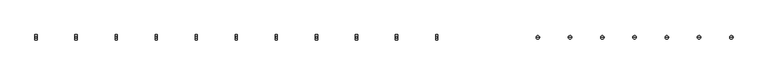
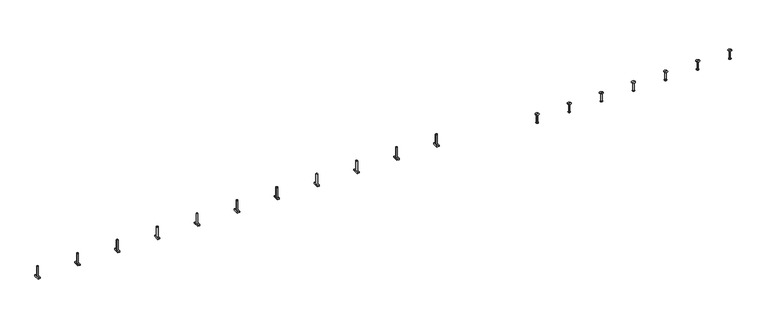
"""IFC4 building model written with IfcOpenShell, lengths in millimetres: fastener geometry, JTA-K JORDAHL® AnchorChannels : JTA-K L=6000 mm."""

from ifc_helpers import new_model, si_unit, frame, origin, place, context, project, spatial, polyline, circle_curve, source, transform, mapped, element, save
from ifc_brep_helpers import plane_surface, cylinder_surface, revolved_surface, advanced_brep


def fastener_5bf4a707(model_context):
    return source(origin(), model_context, "Body", "AdvancedBrep", [
        advanced_brep(
        [(3470.3421053, -20.7, -3.0), (3470.3421053, -20.7, -13.0), (3470.3421053, 20.7, -13.0), (3470.3421053, 20.7, -3.0), (3453.3421053, -20.7, -3.0), (3453.3421053, 20.7, -3.0), (3453.3421053, 20.7, -13.0), (3453.3421053, -20.7, -13.0), (3467.8421053, 0.0, -3.0), (3455.8421053, 0.0, -3.0), (3455.8421053, 0.0, 77.0), (3467.8421053, 0.0, 77.0)],
        [
            (0, 1),
            (1, 2),
            (2, 3),
            (3, 0),
            (4, 5),
            (5, 6),
            (6, 7),
            (7, 4),
            (3, 5),
            (4, 0),
            (8, 9, circle_curve(frame((3461.8421053, 0.0, -3.0), z_axis=(0.0, 0.0, -1.0), x_axis=(1.0, 0.0, 0.0)), 6.0)),
            (9, 8, circle_curve(frame((3461.8421053, 0.0, -3.0), z_axis=(0.0, 0.0, -1.0), x_axis=(1.0, 0.0, 0.0)), 6.0)),
            (2, 6),
            (1, 7),
            (10, 11, circle_curve(frame((3461.8421053, 0.0, 77.0), z_axis=(0.0, 0.0, 1.0), x_axis=(1.0, 0.0, 0.0)), 6.0)),
            (11, 10, circle_curve(frame((3461.8421053, 0.0, 77.0), z_axis=(0.0, 0.0, 1.0), x_axis=(1.0, 0.0, 0.0)), 6.0)),
            (11, 8),
            (9, 10),
        ],
        [
            plane_surface(frame((3470.3421053, 20.7, -3.0), z_axis=(1.0, 0.0, 0.0), x_axis=(0.0, 1.0, 0.0))),
            plane_surface(frame((3453.3421053, 20.7, -3.0), z_axis=(-1.0, 0.0, 0.0), x_axis=(0.0, -1.0, 0.0))),
            plane_surface(frame((3470.3421053, -20.7, -3.0), z_axis=(0.0, 0.0, 1.0), x_axis=(-1.0, 0.0, 0.0))),
            plane_surface(frame((3470.3421053, 20.7, -3.0), z_axis=(0.0, 1.0, 0.0), x_axis=(-1.0, 0.0, 0.0))),
            plane_surface(frame((3470.3421053, 20.7, -13.0), z_axis=(0.0, 0.0, -1.0), x_axis=(-1.0, 0.0, 0.0))),
            plane_surface(frame((3470.3421053, -20.7, -13.0), z_axis=(0.0, -1.0, 0.0), x_axis=(-1.0, 0.0, 0.0))),
            plane_surface(frame((3467.8421053, 0.0, 77.0), z_axis=(0.0, 0.0, 1.0), x_axis=(0.0, -1.0, 0.0))),
            cylinder_surface(frame((3461.8421053, 0.0, -3.0), z_axis=(0.0, 0.0, 1.0), x_axis=(1.0, 0.0, 0.0)), 6.0),
        ],
        [
            (0, [[1, 2, 3, 4]]),
            (1, [[5, 6, 7, 8]]),
            (2, [[9, -5, 10, -4], [11, 12]]),
            (3, [[13, -6, -9, -3]]),
            (4, [[14, -7, -13, -2]]),
            (5, [[-10, -8, -14, -1]]),
            (6, [[15, 16]]),
            (7, [[17, -12, 18, -16]]),
            (7, [[-18, -11, -17, -15]]),
        ],
    ),
        advanced_brep(
        [(3162.4473684, -20.7, -3.0), (3162.4473684, -20.7, -13.0), (3162.4473684, 20.7, -13.0), (3162.4473684, 20.7, -3.0), (3145.4473684, -20.7, -3.0), (3145.4473684, 20.7, -3.0), (3145.4473684, 20.7, -13.0), (3145.4473684, -20.7, -13.0), (3159.9473684, 0.0, -3.0), (3147.9473684, 0.0, -3.0), (3147.9473684, 0.0, 77.0), (3159.9473684, 0.0, 77.0)],
        [
            (0, 1),
            (1, 2),
            (2, 3),
            (3, 0),
            (4, 5),
            (5, 6),
            (6, 7),
            (7, 4),
            (3, 5),
            (4, 0),
            (8, 9, circle_curve(frame((3153.9473684, 0.0, -3.0), z_axis=(0.0, 0.0, -1.0), x_axis=(1.0, 0.0, 0.0)), 6.0)),
            (9, 8, circle_curve(frame((3153.9473684, 0.0, -3.0), z_axis=(0.0, 0.0, -1.0), x_axis=(1.0, 0.0, 0.0)), 6.0)),
            (2, 6),
            (1, 7),
            (10, 11, circle_curve(frame((3153.9473684, 0.0, 77.0), z_axis=(0.0, 0.0, 1.0), x_axis=(1.0, 0.0, 0.0)), 6.0)),
            (11, 10, circle_curve(frame((3153.9473684, 0.0, 77.0), z_axis=(0.0, 0.0, 1.0), x_axis=(1.0, 0.0, 0.0)), 6.0)),
            (11, 8),
            (9, 10),
        ],
        [
            plane_surface(frame((3162.4473684, 20.7, -3.0), z_axis=(1.0, 0.0, 0.0), x_axis=(0.0, 1.0, 0.0))),
            plane_surface(frame((3145.4473684, 20.7, -3.0), z_axis=(-1.0, 0.0, 0.0), x_axis=(0.0, -1.0, 0.0))),
            plane_surface(frame((3162.4473684, -20.7, -3.0), z_axis=(0.0, 0.0, 1.0), x_axis=(-1.0, 0.0, 0.0))),
            plane_surface(frame((3162.4473684, 20.7, -3.0), z_axis=(0.0, 1.0, 0.0), x_axis=(-1.0, 0.0, 0.0))),
            plane_surface(frame((3162.4473684, 20.7, -13.0), z_axis=(0.0, 0.0, -1.0), x_axis=(-1.0, 0.0, 0.0))),
            plane_surface(frame((3162.4473684, -20.7, -13.0), z_axis=(0.0, -1.0, 0.0), x_axis=(-1.0, 0.0, 0.0))),
            plane_surface(frame((3159.9473684, 0.0, 77.0), z_axis=(0.0, 0.0, 1.0), x_axis=(0.0, -1.0, 0.0))),
            cylinder_surface(frame((3153.9473684, 0.0, -3.0), z_axis=(0.0, 0.0, 1.0), x_axis=(1.0, 0.0, 0.0)), 6.0),
        ],
        [
            (0, [[1, 2, 3, 4]]),
            (1, [[5, 6, 7, 8]]),
            (2, [[9, -5, 10, -4], [11, 12]]),
            (3, [[13, -6, -9, -3]]),
            (4, [[14, -7, -13, -2]]),
            (5, [[-10, -8, -14, -1]]),
            (6, [[15, 16]]),
            (7, [[17, -12, 18, -16]]),
            (7, [[-18, -11, -17, -15]]),
        ],
    ),
        advanced_brep(
        [(2854.5526316, -20.7, -3.0), (2854.5526316, -20.7, -13.0), (2854.5526316, 20.7, -13.0), (2854.5526316, 20.7, -3.0), (2837.5526316, -20.7, -3.0), (2837.5526316, 20.7, -3.0), (2837.5526316, 20.7, -13.0), (2837.5526316, -20.7, -13.0), (2852.0526316, 0.0, -3.0), (2840.0526316, 0.0, -3.0), (2840.0526316, 0.0, 77.0), (2852.0526316, 0.0, 77.0)],
        [
            (0, 1),
            (1, 2),
            (2, 3),
            (3, 0),
            (4, 5),
            (5, 6),
            (6, 7),
            (7, 4),
            (3, 5),
            (4, 0),
            (8, 9, circle_curve(frame((2846.0526316, 0.0, -3.0), z_axis=(0.0, 0.0, -1.0), x_axis=(1.0, 0.0, 0.0)), 6.0)),
            (9, 8, circle_curve(frame((2846.0526316, 0.0, -3.0), z_axis=(0.0, 0.0, -1.0), x_axis=(1.0, 0.0, 0.0)), 6.0)),
            (2, 6),
            (1, 7),
            (10, 11, circle_curve(frame((2846.0526316, 0.0, 77.0), z_axis=(0.0, 0.0, 1.0), x_axis=(1.0, 0.0, 0.0)), 6.0)),
            (11, 10, circle_curve(frame((2846.0526316, 0.0, 77.0), z_axis=(0.0, 0.0, 1.0), x_axis=(1.0, 0.0, 0.0)), 6.0)),
            (11, 8),
            (9, 10),
        ],
        [
            plane_surface(frame((2854.5526316, 20.7, -3.0), z_axis=(1.0, 0.0, 0.0), x_axis=(0.0, 1.0, 0.0))),
            plane_surface(frame((2837.5526316, 20.7, -3.0), z_axis=(-1.0, 0.0, 0.0), x_axis=(0.0, -1.0, 0.0))),
            plane_surface(frame((2854.5526316, -20.7, -3.0), z_axis=(0.0, 0.0, 1.0), x_axis=(-1.0, 0.0, 0.0))),
            plane_surface(frame((2854.5526316, 20.7, -3.0), z_axis=(0.0, 1.0, 0.0), x_axis=(-1.0, 0.0, 0.0))),
            plane_surface(frame((2854.5526316, 20.7, -13.0), z_axis=(0.0, 0.0, -1.0), x_axis=(-1.0, 0.0, 0.0))),
            plane_surface(frame((2854.5526316, -20.7, -13.0), z_axis=(0.0, -1.0, 0.0), x_axis=(-1.0, 0.0, 0.0))),
            plane_surface(frame((2852.0526316, 0.0, 77.0), z_axis=(0.0, 0.0, 1.0), x_axis=(0.0, -1.0, 0.0))),
            cylinder_surface(frame((2846.0526316, 0.0, -3.0), z_axis=(0.0, 0.0, 1.0), x_axis=(1.0, 0.0, 0.0)), 6.0),
        ],
        [
            (0, [[1, 2, 3, 4]]),
            (1, [[5, 6, 7, 8]]),
            (2, [[9, -5, 10, -4], [11, 12]]),
            (3, [[13, -6, -9, -3]]),
            (4, [[14, -7, -13, -2]]),
            (5, [[-10, -8, -14, -1]]),
            (6, [[15, 16]]),
            (7, [[17, -12, 18, -16]]),
            (7, [[-18, -11, -17, -15]]),
        ],
    ),
        advanced_brep(
        [(2546.6578947, -20.7, -3.0), (2546.6578947, -20.7, -13.0), (2546.6578947, 20.7, -13.0), (2546.6578947, 20.7, -3.0), (2529.6578947, -20.7, -3.0), (2529.6578947, 20.7, -3.0), (2529.6578947, 20.7, -13.0), (2529.6578947, -20.7, -13.0), (2544.1578947, 0.0, -3.0), (2532.1578947, 0.0, -3.0), (2532.1578947, 0.0, 77.0), (2544.1578947, 0.0, 77.0)],
        [
            (0, 1),
            (1, 2),
            (2, 3),
            (3, 0),
            (4, 5),
            (5, 6),
            (6, 7),
            (7, 4),
            (3, 5),
            (4, 0),
            (8, 9, circle_curve(frame((2538.1578947, 0.0, -3.0), z_axis=(0.0, 0.0, -1.0), x_axis=(1.0, 0.0, 0.0)), 6.0)),
            (9, 8, circle_curve(frame((2538.1578947, 0.0, -3.0), z_axis=(0.0, 0.0, -1.0), x_axis=(1.0, 0.0, 0.0)), 6.0)),
            (2, 6),
            (1, 7),
            (10, 11, circle_curve(frame((2538.1578947, 0.0, 77.0), z_axis=(0.0, 0.0, 1.0), x_axis=(1.0, 0.0, 0.0)), 6.0)),
            (11, 10, circle_curve(frame((2538.1578947, 0.0, 77.0), z_axis=(0.0, 0.0, 1.0), x_axis=(1.0, 0.0, 0.0)), 6.0)),
            (11, 8),
            (9, 10),
        ],
        [
            plane_surface(frame((2546.6578947, 20.7, -3.0), z_axis=(1.0, 0.0, 0.0), x_axis=(0.0, 1.0, 0.0))),
            plane_surface(frame((2529.6578947, 20.7, -3.0), z_axis=(-1.0, 0.0, 0.0), x_axis=(0.0, -1.0, 0.0))),
            plane_surface(frame((2546.6578947, -20.7, -3.0), z_axis=(0.0, 0.0, 1.0), x_axis=(-1.0, 0.0, 0.0))),
            plane_surface(frame((2546.6578947, 20.7, -3.0), z_axis=(0.0, 1.0, 0.0), x_axis=(-1.0, 0.0, 0.0))),
            plane_surface(frame((2546.6578947, 20.7, -13.0), z_axis=(0.0, 0.0, -1.0), x_axis=(-1.0, 0.0, 0.0))),
            plane_surface(frame((2546.6578947, -20.7, -13.0), z_axis=(0.0, -1.0, 0.0), x_axis=(-1.0, 0.0, 0.0))),
            plane_surface(frame((2544.1578947, 0.0, 77.0), z_axis=(0.0, 0.0, 1.0), x_axis=(0.0, -1.0, 0.0))),
            cylinder_surface(frame((2538.1578947, 0.0, -3.0), z_axis=(0.0, 0.0, 1.0), x_axis=(1.0, 0.0, 0.0)), 6.0),
        ],
        [
            (0, [[1, 2, 3, 4]]),
            (1, [[5, 6, 7, 8]]),
            (2, [[9, -5, 10, -4], [11, 12]]),
            (3, [[13, -6, -9, -3]]),
            (4, [[14, -7, -13, -2]]),
            (5, [[-10, -8, -14, -1]]),
            (6, [[15, 16]]),
            (7, [[17, -12, 18, -16]]),
            (7, [[-18, -11, -17, -15]]),
        ],
    ),
        advanced_brep(
        [(2238.7631579, -20.7, -3.0), (2238.7631579, -20.7, -13.0), (2238.7631579, 20.7, -13.0), (2238.7631579, 20.7, -3.0), (2221.7631579, -20.7, -3.0), (2221.7631579, 20.7, -3.0), (2221.7631579, 20.7, -13.0), (2221.7631579, -20.7, -13.0), (2236.2631579, 0.0, -3.0), (2224.2631579, 0.0, -3.0), (2224.2631579, 0.0, 77.0), (2236.2631579, 0.0, 77.0)],
        [
            (0, 1),
            (1, 2),
            (2, 3),
            (3, 0),
            (4, 5),
            (5, 6),
            (6, 7),
            (7, 4),
            (3, 5),
            (4, 0),
            (8, 9, circle_curve(frame((2230.2631579, 0.0, -3.0), z_axis=(0.0, 0.0, -1.0), x_axis=(1.0, 0.0, 0.0)), 6.0)),
            (9, 8, circle_curve(frame((2230.2631579, 0.0, -3.0), z_axis=(0.0, 0.0, -1.0), x_axis=(1.0, 0.0, 0.0)), 6.0)),
            (2, 6),
            (1, 7),
            (10, 11, circle_curve(frame((2230.2631579, 0.0, 77.0), z_axis=(0.0, 0.0, 1.0), x_axis=(1.0, 0.0, 0.0)), 6.0)),
            (11, 10, circle_curve(frame((2230.2631579, 0.0, 77.0), z_axis=(0.0, 0.0, 1.0), x_axis=(1.0, 0.0, 0.0)), 6.0)),
            (11, 8),
            (9, 10),
        ],
        [
            plane_surface(frame((2238.7631579, 20.7, -3.0), z_axis=(1.0, 0.0, 0.0), x_axis=(0.0, 1.0, 0.0))),
            plane_surface(frame((2221.7631579, 20.7, -3.0), z_axis=(-1.0, 0.0, 0.0), x_axis=(0.0, -1.0, 0.0))),
            plane_surface(frame((2238.7631579, -20.7, -3.0), z_axis=(0.0, 0.0, 1.0), x_axis=(-1.0, 0.0, 0.0))),
            plane_surface(frame((2238.7631579, 20.7, -3.0), z_axis=(0.0, 1.0, 0.0), x_axis=(-1.0, 0.0, 0.0))),
            plane_surface(frame((2238.7631579, 20.7, -13.0), z_axis=(0.0, 0.0, -1.0), x_axis=(-1.0, 0.0, 0.0))),
            plane_surface(frame((2238.7631579, -20.7, -13.0), z_axis=(0.0, -1.0, 0.0), x_axis=(-1.0, 0.0, 0.0))),
            plane_surface(frame((2236.2631579, 0.0, 77.0), z_axis=(0.0, 0.0, 1.0), x_axis=(0.0, -1.0, 0.0))),
            cylinder_surface(frame((2230.2631579, 0.0, -3.0), z_axis=(0.0, 0.0, 1.0), x_axis=(1.0, 0.0, 0.0)), 6.0),
        ],
        [
            (0, [[1, 2, 3, 4]]),
            (1, [[5, 6, 7, 8]]),
            (2, [[9, -5, 10, -4], [11, 12]]),
            (3, [[13, -6, -9, -3]]),
            (4, [[14, -7, -13, -2]]),
            (5, [[-10, -8, -14, -1]]),
            (6, [[15, 16]]),
            (7, [[17, -12, 18, -16]]),
            (7, [[-18, -11, -17, -15]]),
        ],
    ),
        advanced_brep(
        [(1930.8684211, -20.7, -3.0), (1930.8684211, -20.7, -13.0), (1930.8684211, 20.7, -13.0), (1930.8684211, 20.7, -3.0), (1913.8684211, -20.7, -3.0), (1913.8684211, 20.7, -3.0), (1913.8684211, 20.7, -13.0), (1913.8684211, -20.7, -13.0), (1928.3684211, 0.0, -3.0), (1916.3684211, 0.0, -3.0), (1916.3684211, 0.0, 77.0), (1928.3684211, 0.0, 77.0)],
        [
            (0, 1),
            (1, 2),
            (2, 3),
            (3, 0),
            (4, 5),
            (5, 6),
            (6, 7),
            (7, 4),
            (3, 5),
            (4, 0),
            (8, 9, circle_curve(frame((1922.3684211, 0.0, -3.0), z_axis=(0.0, 0.0, -1.0), x_axis=(1.0, 0.0, 0.0)), 6.0)),
            (9, 8, circle_curve(frame((1922.3684211, 0.0, -3.0), z_axis=(0.0, 0.0, -1.0), x_axis=(1.0, 0.0, 0.0)), 6.0)),
            (2, 6),
            (1, 7),
            (10, 11, circle_curve(frame((1922.3684211, 0.0, 77.0), z_axis=(0.0, 0.0, 1.0), x_axis=(1.0, 0.0, 0.0)), 6.0)),
            (11, 10, circle_curve(frame((1922.3684211, 0.0, 77.0), z_axis=(0.0, 0.0, 1.0), x_axis=(1.0, 0.0, 0.0)), 6.0)),
            (11, 8),
            (9, 10),
        ],
        [
            plane_surface(frame((1930.8684211, 20.7, -3.0), z_axis=(1.0, 0.0, 0.0), x_axis=(0.0, 1.0, 0.0))),
            plane_surface(frame((1913.8684211, 20.7, -3.0), z_axis=(-1.0, 0.0, 0.0), x_axis=(0.0, -1.0, 0.0))),
            plane_surface(frame((1930.8684211, -20.7, -3.0), z_axis=(0.0, 0.0, 1.0), x_axis=(-1.0, 0.0, 0.0))),
            plane_surface(frame((1930.8684211, 20.7, -3.0), z_axis=(0.0, 1.0, 0.0), x_axis=(-1.0, 0.0, 0.0))),
            plane_surface(frame((1930.8684211, 20.7, -13.0), z_axis=(0.0, 0.0, -1.0), x_axis=(-1.0, 0.0, 0.0))),
            plane_surface(frame((1930.8684211, -20.7, -13.0), z_axis=(0.0, -1.0, 0.0), x_axis=(-1.0, 0.0, 0.0))),
            plane_surface(frame((1928.3684211, 0.0, 77.0), z_axis=(0.0, 0.0, 1.0), x_axis=(0.0, -1.0, 0.0))),
            cylinder_surface(frame((1922.3684211, 0.0, -3.0), z_axis=(0.0, 0.0, 1.0), x_axis=(1.0, 0.0, 0.0)), 6.0),
        ],
        [
            (0, [[1, 2, 3, 4]]),
            (1, [[5, 6, 7, 8]]),
            (2, [[9, -5, 10, -4], [11, 12]]),
            (3, [[13, -6, -9, -3]]),
            (4, [[14, -7, -13, -2]]),
            (5, [[-10, -8, -14, -1]]),
            (6, [[15, 16]]),
            (7, [[17, -12, 18, -16]]),
            (7, [[-18, -11, -17, -15]]),
        ],
    ),
        advanced_brep(
        [(1622.9736842, -20.7, -3.0), (1622.9736842, -20.7, -13.0), (1622.9736842, 20.7, -13.0), (1622.9736842, 20.7, -3.0), (1605.9736842, -20.7, -3.0), (1605.9736842, 20.7, -3.0), (1605.9736842, 20.7, -13.0), (1605.9736842, -20.7, -13.0), (1620.4736842, 0.0, -3.0), (1608.4736842, 0.0, -3.0), (1608.4736842, 0.0, 77.0), (1620.4736842, 0.0, 77.0)],
        [
            (0, 1),
            (1, 2),
            (2, 3),
            (3, 0),
            (4, 5),
            (5, 6),
            (6, 7),
            (7, 4),
            (3, 5),
            (4, 0),
            (8, 9, circle_curve(frame((1614.4736842, 0.0, -3.0), z_axis=(0.0, 0.0, -1.0), x_axis=(1.0, 0.0, 0.0)), 6.0)),
            (9, 8, circle_curve(frame((1614.4736842, 0.0, -3.0), z_axis=(0.0, 0.0, -1.0), x_axis=(1.0, 0.0, 0.0)), 6.0)),
            (2, 6),
            (1, 7),
            (10, 11, circle_curve(frame((1614.4736842, 0.0, 77.0), z_axis=(0.0, 0.0, 1.0), x_axis=(1.0, 0.0, 0.0)), 6.0)),
            (11, 10, circle_curve(frame((1614.4736842, 0.0, 77.0), z_axis=(0.0, 0.0, 1.0), x_axis=(1.0, 0.0, 0.0)), 6.0)),
            (11, 8),
            (9, 10),
        ],
        [
            plane_surface(frame((1622.9736842, 20.7, -3.0), z_axis=(1.0, 0.0, 0.0), x_axis=(0.0, 1.0, 0.0))),
            plane_surface(frame((1605.9736842, 20.7, -3.0), z_axis=(-1.0, 0.0, 0.0), x_axis=(0.0, -1.0, 0.0))),
            plane_surface(frame((1622.9736842, -20.7, -3.0), z_axis=(0.0, 0.0, 1.0), x_axis=(-1.0, 0.0, 0.0))),
            plane_surface(frame((1622.9736842, 20.7, -3.0), z_axis=(0.0, 1.0, 0.0), x_axis=(-1.0, 0.0, 0.0))),
            plane_surface(frame((1622.9736842, 20.7, -13.0), z_axis=(0.0, 0.0, -1.0), x_axis=(-1.0, 0.0, 0.0))),
            plane_surface(frame((1622.9736842, -20.7, -13.0), z_axis=(0.0, -1.0, 0.0), x_axis=(-1.0, 0.0, 0.0))),
            plane_surface(frame((1620.4736842, 0.0, 77.0), z_axis=(0.0, 0.0, 1.0), x_axis=(0.0, -1.0, 0.0))),
            cylinder_surface(frame((1614.4736842, 0.0, -3.0), z_axis=(0.0, 0.0, 1.0), x_axis=(1.0, 0.0, 0.0)), 6.0),
        ],
        [
            (0, [[1, 2, 3, 4]]),
            (1, [[5, 6, 7, 8]]),
            (2, [[9, -5, 10, -4], [11, 12]]),
            (3, [[13, -6, -9, -3]]),
            (4, [[14, -7, -13, -2]]),
            (5, [[-10, -8, -14, -1]]),
            (6, [[15, 16]]),
            (7, [[17, -12, 18, -16]]),
            (7, [[-18, -11, -17, -15]]),
        ],
    ),
        advanced_brep(
        [(1315.0789474, -20.7, -3.0), (1315.0789474, -20.7, -13.0), (1315.0789474, 20.7, -13.0), (1315.0789474, 20.7, -3.0), (1298.0789474, -20.7, -3.0), (1298.0789474, 20.7, -3.0), (1298.0789474, 20.7, -13.0), (1298.0789474, -20.7, -13.0), (1312.5789474, 0.0, -3.0), (1300.5789474, 0.0, -3.0), (1300.5789474, 0.0, 77.0), (1312.5789474, 0.0, 77.0)],
        [
            (0, 1),
            (1, 2),
            (2, 3),
            (3, 0),
            (4, 5),
            (5, 6),
            (6, 7),
            (7, 4),
            (3, 5),
            (4, 0),
            (8, 9, circle_curve(frame((1306.5789474, 0.0, -3.0), z_axis=(0.0, 0.0, -1.0), x_axis=(1.0, 0.0, 0.0)), 6.0)),
            (9, 8, circle_curve(frame((1306.5789474, 0.0, -3.0), z_axis=(0.0, 0.0, -1.0), x_axis=(1.0, 0.0, 0.0)), 6.0)),
            (2, 6),
            (1, 7),
            (10, 11, circle_curve(frame((1306.5789474, 0.0, 77.0), z_axis=(0.0, 0.0, 1.0), x_axis=(1.0, 0.0, 0.0)), 6.0)),
            (11, 10, circle_curve(frame((1306.5789474, 0.0, 77.0), z_axis=(0.0, 0.0, 1.0), x_axis=(1.0, 0.0, 0.0)), 6.0)),
            (11, 8),
            (9, 10),
        ],
        [
            plane_surface(frame((1315.0789474, 20.7, -3.0), z_axis=(1.0, 0.0, 0.0), x_axis=(0.0, 1.0, 0.0))),
            plane_surface(frame((1298.0789474, 20.7, -3.0), z_axis=(-1.0, 0.0, 0.0), x_axis=(0.0, -1.0, 0.0))),
            plane_surface(frame((1315.0789474, -20.7, -3.0), z_axis=(0.0, 0.0, 1.0), x_axis=(-1.0, 0.0, 0.0))),
            plane_surface(frame((1315.0789474, 20.7, -3.0), z_axis=(0.0, 1.0, 0.0), x_axis=(-1.0, 0.0, 0.0))),
            plane_surface(frame((1315.0789474, 20.7, -13.0), z_axis=(0.0, 0.0, -1.0), x_axis=(-1.0, 0.0, 0.0))),
            plane_surface(frame((1315.0789474, -20.7, -13.0), z_axis=(0.0, -1.0, 0.0), x_axis=(-1.0, 0.0, 0.0))),
            plane_surface(frame((1312.5789474, 0.0, 77.0), z_axis=(0.0, 0.0, 1.0), x_axis=(0.0, -1.0, 0.0))),
            cylinder_surface(frame((1306.5789474, 0.0, -3.0), z_axis=(0.0, 0.0, 1.0), x_axis=(1.0, 0.0, 0.0)), 6.0),
        ],
        [
            (0, [[1, 2, 3, 4]]),
            (1, [[5, 6, 7, 8]]),
            (2, [[9, -5, 10, -4], [11, 12]]),
            (3, [[13, -6, -9, -3]]),
            (4, [[14, -7, -13, -2]]),
            (5, [[-10, -8, -14, -1]]),
            (6, [[15, 16]]),
            (7, [[17, -12, 18, -16]]),
            (7, [[-18, -11, -17, -15]]),
        ],
    ),
        advanced_brep(
        [(1007.1842105, -20.7, -3.0), (1007.1842105, -20.7, -13.0), (1007.1842105, 20.7, -13.0), (1007.1842105, 20.7, -3.0), (990.1842105, -20.7, -3.0), (990.1842105, 20.7, -3.0), (990.1842105, 20.7, -13.0), (990.1842105, -20.7, -13.0), (1004.6842105, 0.0, -3.0), (992.6842105, 0.0, -3.0), (992.6842105, 0.0, 77.0), (1004.6842105, 0.0, 77.0)],
        [
            (0, 1),
            (1, 2),
            (2, 3),
            (3, 0),
            (4, 5),
            (5, 6),
            (6, 7),
            (7, 4),
            (3, 5),
            (4, 0),
            (8, 9, circle_curve(frame((998.6842105, 0.0, -3.0), z_axis=(0.0, 0.0, -1.0), x_axis=(1.0, 0.0, 0.0)), 6.0)),
            (9, 8, circle_curve(frame((998.6842105, 0.0, -3.0), z_axis=(0.0, 0.0, -1.0), x_axis=(1.0, 0.0, 0.0)), 6.0)),
            (2, 6),
            (1, 7),
            (10, 11, circle_curve(frame((998.6842105, 0.0, 77.0), z_axis=(0.0, 0.0, 1.0), x_axis=(1.0, 0.0, 0.0)), 6.0)),
            (11, 10, circle_curve(frame((998.6842105, 0.0, 77.0), z_axis=(0.0, 0.0, 1.0), x_axis=(1.0, 0.0, 0.0)), 6.0)),
            (11, 8),
            (9, 10),
        ],
        [
            plane_surface(frame((1007.1842105, 20.7, -3.0), z_axis=(1.0, 0.0, 0.0), x_axis=(0.0, 1.0, 0.0))),
            plane_surface(frame((990.1842105, 20.7, -3.0), z_axis=(-1.0, 0.0, 0.0), x_axis=(0.0, -1.0, 0.0))),
            plane_surface(frame((1007.1842105, -20.7, -3.0), z_axis=(0.0, 0.0, 1.0), x_axis=(-1.0, 0.0, 0.0))),
            plane_surface(frame((1007.1842105, 20.7, -3.0), z_axis=(0.0, 1.0, 0.0), x_axis=(-1.0, 0.0, 0.0))),
            plane_surface(frame((1007.1842105, 20.7, -13.0), z_axis=(0.0, 0.0, -1.0), x_axis=(-1.0, 0.0, 0.0))),
            plane_surface(frame((1007.1842105, -20.7, -13.0), z_axis=(0.0, -1.0, 0.0), x_axis=(-1.0, 0.0, 0.0))),
            plane_surface(frame((1004.6842105, 0.0, 77.0), z_axis=(0.0, 0.0, 1.0), x_axis=(0.0, -1.0, 0.0))),
            cylinder_surface(frame((998.6842105, 0.0, -3.0), z_axis=(0.0, 0.0, 1.0), x_axis=(1.0, 0.0, 0.0)), 6.0),
        ],
        [
            (0, [[1, 2, 3, 4]]),
            (1, [[5, 6, 7, 8]]),
            (2, [[9, -5, 10, -4], [11, 12]]),
            (3, [[13, -6, -9, -3]]),
            (4, [[14, -7, -13, -2]]),
            (5, [[-10, -8, -14, -1]]),
            (6, [[15, 16]]),
            (7, [[17, -12, 18, -16]]),
            (7, [[-18, -11, -17, -15]]),
        ],
    ),
        advanced_brep(
        [(699.2894737, -20.7, -3.0), (699.2894737, -20.7, -13.0), (699.2894737, 20.7, -13.0), (699.2894737, 20.7, -3.0), (682.2894737, -20.7, -3.0), (682.2894737, 20.7, -3.0), (682.2894737, 20.7, -13.0), (682.2894737, -20.7, -13.0), (696.7894737, 0.0, -3.0), (684.7894737, 0.0, -3.0), (684.7894737, 0.0, 77.0), (696.7894737, 0.0, 77.0)],
        [
            (0, 1),
            (1, 2),
            (2, 3),
            (3, 0),
            (4, 5),
            (5, 6),
            (6, 7),
            (7, 4),
            (3, 5),
            (4, 0),
            (8, 9, circle_curve(frame((690.7894737, 0.0, -3.0), z_axis=(0.0, 0.0, -1.0), x_axis=(1.0, 0.0, 0.0)), 6.0)),
            (9, 8, circle_curve(frame((690.7894737, 0.0, -3.0), z_axis=(0.0, 0.0, -1.0), x_axis=(1.0, 0.0, 0.0)), 6.0)),
            (2, 6),
            (1, 7),
            (10, 11, circle_curve(frame((690.7894737, 0.0, 77.0), z_axis=(0.0, 0.0, 1.0), x_axis=(1.0, 0.0, 0.0)), 6.0)),
            (11, 10, circle_curve(frame((690.7894737, 0.0, 77.0), z_axis=(0.0, 0.0, 1.0), x_axis=(1.0, 0.0, 0.0)), 6.0)),
            (11, 8),
            (9, 10),
        ],
        [
            plane_surface(frame((699.2894737, 20.7, -3.0), z_axis=(1.0, 0.0, 0.0), x_axis=(0.0, 1.0, 0.0))),
            plane_surface(frame((682.2894737, 20.7, -3.0), z_axis=(-1.0, 0.0, 0.0), x_axis=(0.0, -1.0, 0.0))),
            plane_surface(frame((699.2894737, -20.7, -3.0), z_axis=(0.0, 0.0, 1.0), x_axis=(-1.0, 0.0, 0.0))),
            plane_surface(frame((699.2894737, 20.7, -3.0), z_axis=(0.0, 1.0, 0.0), x_axis=(-1.0, 0.0, 0.0))),
            plane_surface(frame((699.2894737, 20.7, -13.0), z_axis=(0.0, 0.0, -1.0), x_axis=(-1.0, 0.0, 0.0))),
            plane_surface(frame((699.2894737, -20.7, -13.0), z_axis=(0.0, -1.0, 0.0), x_axis=(-1.0, 0.0, 0.0))),
            plane_surface(frame((696.7894737, 0.0, 77.0), z_axis=(0.0, 0.0, 1.0), x_axis=(0.0, -1.0, 0.0))),
            cylinder_surface(frame((690.7894737, 0.0, -3.0), z_axis=(0.0, 0.0, 1.0), x_axis=(1.0, 0.0, 0.0)), 6.0),
        ],
        [
            (0, [[1, 2, 3, 4]]),
            (1, [[5, 6, 7, 8]]),
            (2, [[9, -5, 10, -4], [11, 12]]),
            (3, [[13, -6, -9, -3]]),
            (4, [[14, -7, -13, -2]]),
            (5, [[-10, -8, -14, -1]]),
            (6, [[15, 16]]),
            (7, [[17, -12, 18, -16]]),
            (7, [[-18, -11, -17, -15]]),
        ],
    ),
        advanced_brep(
        [(391.3947368, -20.7, -3.0), (391.3947368, -20.7, -13.0), (391.3947368, 20.7, -13.0), (391.3947368, 20.7, -3.0), (374.3947368, -20.7, -3.0), (374.3947368, 20.7, -3.0), (374.3947368, 20.7, -13.0), (374.3947368, -20.7, -13.0), (388.8947368, 0.0, -3.0), (376.8947368, 0.0, -3.0), (376.8947368, 0.0, 77.0), (388.8947368, 0.0, 77.0)],
        [
            (0, 1),
            (1, 2),
            (2, 3),
            (3, 0),
            (4, 5),
            (5, 6),
            (6, 7),
            (7, 4),
            (3, 5),
            (4, 0),
            (8, 9, circle_curve(frame((382.8947368, 0.0, -3.0), z_axis=(0.0, 0.0, -1.0), x_axis=(1.0, 0.0, 0.0)), 6.0)),
            (9, 8, circle_curve(frame((382.8947368, 0.0, -3.0), z_axis=(0.0, 0.0, -1.0), x_axis=(1.0, 0.0, 0.0)), 6.0)),
            (2, 6),
            (1, 7),
            (10, 11, circle_curve(frame((382.8947368, 0.0, 77.0), z_axis=(0.0, 0.0, 1.0), x_axis=(1.0, 0.0, 0.0)), 6.0)),
            (11, 10, circle_curve(frame((382.8947368, 0.0, 77.0), z_axis=(0.0, 0.0, 1.0), x_axis=(1.0, 0.0, 0.0)), 6.0)),
            (11, 8),
            (9, 10),
        ],
        [
            plane_surface(frame((391.3947368, 20.7, -3.0), z_axis=(1.0, 0.0, 0.0), x_axis=(0.0, 1.0, 0.0))),
            plane_surface(frame((374.3947368, 20.7, -3.0), z_axis=(-1.0, 0.0, 0.0), x_axis=(0.0, -1.0, 0.0))),
            plane_surface(frame((391.3947368, -20.7, -3.0), z_axis=(0.0, 0.0, 1.0), x_axis=(-1.0, 0.0, 0.0))),
            plane_surface(frame((391.3947368, 20.7, -3.0), z_axis=(0.0, 1.0, 0.0), x_axis=(-1.0, 0.0, 0.0))),
            plane_surface(frame((391.3947368, 20.7, -13.0), z_axis=(0.0, 0.0, -1.0), x_axis=(-1.0, 0.0, 0.0))),
            plane_surface(frame((391.3947368, -20.7, -13.0), z_axis=(0.0, -1.0, 0.0), x_axis=(-1.0, 0.0, 0.0))),
            plane_surface(frame((388.8947368, 0.0, 77.0), z_axis=(0.0, 0.0, 1.0), x_axis=(0.0, -1.0, 0.0))),
            cylinder_surface(frame((382.8947368, 0.0, -3.0), z_axis=(0.0, 0.0, 1.0), x_axis=(1.0, 0.0, 0.0)), 6.0),
        ],
        [
            (0, [[1, 2, 3, 4]]),
            (1, [[5, 6, 7, 8]]),
            (2, [[9, -5, 10, -4], [11, 12]]),
            (3, [[13, -6, -9, -3]]),
            (4, [[14, -7, -13, -2]]),
            (5, [[-10, -8, -14, -1]]),
            (6, [[15, 16]]),
            (7, [[17, -12, 18, -16]]),
            (7, [[-18, -11, -17, -15]]),
        ],
    ),
        advanced_brep(
        [(5727.0833333, 0.0, -30.0), (5713.5833333, 0.0, -30.0), (5740.5833333, 0.0, -30.0), (5718.5833333, 0.0, -100.0), (5727.0833333, 0.0, -100.0), (5735.5833333, 0.0, -100.0), (5718.5833333, 0.0, -98.0), (5735.5833333, 0.0, -98.0), (5722.5833333, 0.0, -95.6905989), (5731.5833333, 0.0, -95.6905989), (5722.5833333, 0.0, -32.5), (5731.5833333, 0.0, -32.5)],
        [
            (0, 1),
            (1, 2, circle_curve(frame((5727.0833333, 0.0, -30.0), z_axis=(0.0, 0.0, 1.0), x_axis=(1.0, 0.0, 0.0)), 13.5)),
            (2, 0),
            (2, 1, circle_curve(frame((5727.0833333, 0.0, -30.0), z_axis=(0.0, 0.0, 1.0), x_axis=(1.0, 0.0, 0.0)), 13.5)),
            (3, 4),
            (4, 5),
            (5, 3, circle_curve(frame((5727.0833333, 0.0, -100.0), z_axis=(0.0, 0.0, -1.0), x_axis=(1.0, 0.0, 0.0)), 8.5)),
            (3, 5, circle_curve(frame((5727.0833333, 0.0, -100.0), z_axis=(0.0, 0.0, -1.0), x_axis=(1.0, 0.0, 0.0)), 8.5)),
            (6, 3),
            (5, 7),
            (7, 6, circle_curve(frame((5727.0833333, 0.0, -98.0), z_axis=(0.0, 0.0, -1.0), x_axis=(1.0, 0.0, 0.0)), 8.5)),
            (6, 7, circle_curve(frame((5727.0833333, 0.0, -98.0), z_axis=(0.0, 0.0, -1.0), x_axis=(1.0, 0.0, 0.0)), 8.5)),
            (8, 6),
            (7, 9),
            (9, 8, circle_curve(frame((5727.0833333, 0.0, -95.6905989), z_axis=(0.0, 0.0, -1.0), x_axis=(1.0, 0.0, 0.0)), 4.5)),
            (8, 9, circle_curve(frame((5727.0833333, 0.0, -95.6905989), z_axis=(0.0, 0.0, -1.0), x_axis=(1.0, 0.0, 0.0)), 4.5)),
            (10, 8),
            (9, 11),
            (11, 10, circle_curve(frame((5727.0833333, 0.0, -32.5), z_axis=(0.0, 0.0, -1.0), x_axis=(1.0, 0.0, 0.0)), 4.5)),
            (10, 11, circle_curve(frame((5727.0833333, 0.0, -32.5), z_axis=(0.0, 0.0, -1.0), x_axis=(1.0, 0.0, 0.0)), 4.5)),
            (1, 10),
            (11, 2),
        ],
        [
            plane_surface(frame((5727.0833333, 0.0, -30.0), z_axis=(0.0, 0.0, 1.0), x_axis=(1.0, 0.0, 0.0))),
            plane_surface(frame((5727.0833333, 0.0, -100.0), z_axis=(0.0, 0.0, -1.0), x_axis=(1.0, 0.0, 0.0))),
            cylinder_surface(frame((5727.0833333, 0.0, 2284.3150031), z_axis=(0.0, 0.0, 1.0), x_axis=(1.0, 0.0, 0.0)), 8.5),
            revolved_surface(polyline([(5735.5833333, 0.0, -98.0), (5731.5833333, 0.0, -95.6905989)]), (5727.0833333, 0.0, 2284.3150031), (0.0, 0.0, 1.0)),
            cylinder_surface(frame((5727.0833333, 0.0, 2284.3150031), z_axis=(0.0, 0.0, 1.0), x_axis=(1.0, 0.0, 0.0)), 4.5),
            revolved_surface(polyline([(5731.5833333, 0.0, -32.5), (5740.5833333, 0.0, -30.0)]), (5727.0833333, 0.0, 2284.3150031), (0.0, 0.0, 1.0)),
        ],
        [
            (0, [[1, 2, 3]]),
            (0, [[-3, 4, -1]]),
            (1, [[5, 6, 7]]),
            (1, [[-6, -5, 8]]),
            (2, [[9, -7, 10, 11]]),
            (2, [[-10, -8, -9, 12]]),
            (3, [[13, -11, 14, 15]]),
            (3, [[-14, -12, -13, 16]]),
            (4, [[17, -15, 18, 19]]),
            (4, [[-18, -16, -17, 20]]),
            (5, [[21, -19, 22, -2]]),
            (5, [[-22, -20, -21, -4]]),
        ],
    ),
        advanced_brep(
        [(5479.1666667, 0.0, -30.0), (5465.6666667, 0.0, -30.0), (5492.6666667, 0.0, -30.0), (5470.6666667, 0.0, -100.0), (5479.1666667, 0.0, -100.0), (5487.6666667, 0.0, -100.0), (5470.6666667, 0.0, -98.0), (5487.6666667, 0.0, -98.0), (5474.6666667, 0.0, -95.6905989), (5483.6666667, 0.0, -95.6905989), (5474.6666667, 0.0, -32.5), (5483.6666667, 0.0, -32.5)],
        [
            (0, 1),
            (1, 2, circle_curve(frame((5479.1666667, 0.0, -30.0), z_axis=(0.0, 0.0, 1.0), x_axis=(1.0, 0.0, 0.0)), 13.5)),
            (2, 0),
            (2, 1, circle_curve(frame((5479.1666667, 0.0, -30.0), z_axis=(0.0, 0.0, 1.0), x_axis=(1.0, 0.0, 0.0)), 13.5)),
            (3, 4),
            (4, 5),
            (5, 3, circle_curve(frame((5479.1666667, 0.0, -100.0), z_axis=(0.0, 0.0, -1.0), x_axis=(1.0, 0.0, 0.0)), 8.5)),
            (3, 5, circle_curve(frame((5479.1666667, 0.0, -100.0), z_axis=(0.0, 0.0, -1.0), x_axis=(1.0, 0.0, 0.0)), 8.5)),
            (6, 3),
            (5, 7),
            (7, 6, circle_curve(frame((5479.1666667, 0.0, -98.0), z_axis=(0.0, 0.0, -1.0), x_axis=(1.0, 0.0, 0.0)), 8.5)),
            (6, 7, circle_curve(frame((5479.1666667, 0.0, -98.0), z_axis=(0.0, 0.0, -1.0), x_axis=(1.0, 0.0, 0.0)), 8.5)),
            (8, 6),
            (7, 9),
            (9, 8, circle_curve(frame((5479.1666667, 0.0, -95.6905989), z_axis=(0.0, 0.0, -1.0), x_axis=(1.0, 0.0, 0.0)), 4.5)),
            (8, 9, circle_curve(frame((5479.1666667, 0.0, -95.6905989), z_axis=(0.0, 0.0, -1.0), x_axis=(1.0, 0.0, 0.0)), 4.5)),
            (10, 8),
            (9, 11),
            (11, 10, circle_curve(frame((5479.1666667, 0.0, -32.5), z_axis=(0.0, 0.0, -1.0), x_axis=(1.0, 0.0, 0.0)), 4.5)),
            (10, 11, circle_curve(frame((5479.1666667, 0.0, -32.5), z_axis=(0.0, 0.0, -1.0), x_axis=(1.0, 0.0, 0.0)), 4.5)),
            (1, 10),
            (11, 2),
        ],
        [
            plane_surface(frame((5479.1666667, 0.0, -30.0), z_axis=(0.0, 0.0, 1.0), x_axis=(1.0, 0.0, 0.0))),
            plane_surface(frame((5479.1666667, 0.0, -100.0), z_axis=(0.0, 0.0, -1.0), x_axis=(1.0, 0.0, 0.0))),
            cylinder_surface(frame((5479.1666667, 0.0, 2284.3150031), z_axis=(0.0, 0.0, 1.0), x_axis=(1.0, 0.0, 0.0)), 8.5),
            revolved_surface(polyline([(5487.6666667, 0.0, -98.0), (5483.6666667, 0.0, -95.6905989)]), (5479.1666667, 0.0, 2284.3150031), (0.0, 0.0, 1.0)),
            cylinder_surface(frame((5479.1666667, 0.0, 2284.3150031), z_axis=(0.0, 0.0, 1.0), x_axis=(1.0, 0.0, 0.0)), 4.5),
            revolved_surface(polyline([(5483.6666667, 0.0, -32.5), (5492.6666667, 0.0, -30.0)]), (5479.1666667, 0.0, 2284.3150031), (0.0, 0.0, 1.0)),
        ],
        [
            (0, [[1, 2, 3]]),
            (0, [[-3, 4, -1]]),
            (1, [[5, 6, 7]]),
            (1, [[-6, -5, 8]]),
            (2, [[9, -7, 10, 11]]),
            (2, [[-10, -8, -9, 12]]),
            (3, [[13, -11, 14, 15]]),
            (3, [[-14, -12, -13, 16]]),
            (4, [[17, -15, 18, 19]]),
            (4, [[-18, -16, -17, 20]]),
            (5, [[21, -19, 22, -2]]),
            (5, [[-22, -20, -21, -4]]),
        ],
    ),
        advanced_brep(
        [(5231.25, 0.0, -30.0), (5217.75, 0.0, -30.0), (5244.75, 0.0, -30.0), (5222.75, 0.0, -100.0), (5231.25, 0.0, -100.0), (5239.75, 0.0, -100.0), (5222.75, 0.0, -98.0), (5239.75, 0.0, -98.0), (5226.75, 0.0, -95.6905989), (5235.75, 0.0, -95.6905989), (5226.75, 0.0, -32.5), (5235.75, 0.0, -32.5)],
        [
            (0, 1),
            (1, 2, circle_curve(frame((5231.25, 0.0, -30.0), z_axis=(0.0, 0.0, 1.0), x_axis=(1.0, 0.0, 0.0)), 13.5)),
            (2, 0),
            (2, 1, circle_curve(frame((5231.25, 0.0, -30.0), z_axis=(0.0, 0.0, 1.0), x_axis=(1.0, 0.0, 0.0)), 13.5)),
            (3, 4),
            (4, 5),
            (5, 3, circle_curve(frame((5231.25, 0.0, -100.0), z_axis=(0.0, 0.0, -1.0), x_axis=(1.0, 0.0, 0.0)), 8.5)),
            (3, 5, circle_curve(frame((5231.25, 0.0, -100.0), z_axis=(0.0, 0.0, -1.0), x_axis=(1.0, 0.0, 0.0)), 8.5)),
            (6, 3),
            (5, 7),
            (7, 6, circle_curve(frame((5231.25, 0.0, -98.0), z_axis=(0.0, 0.0, -1.0), x_axis=(1.0, 0.0, 0.0)), 8.5)),
            (6, 7, circle_curve(frame((5231.25, 0.0, -98.0), z_axis=(0.0, 0.0, -1.0), x_axis=(1.0, 0.0, 0.0)), 8.5)),
            (8, 6),
            (7, 9),
            (9, 8, circle_curve(frame((5231.25, 0.0, -95.6905989), z_axis=(0.0, 0.0, -1.0), x_axis=(1.0, 0.0, 0.0)), 4.5)),
            (8, 9, circle_curve(frame((5231.25, 0.0, -95.6905989), z_axis=(0.0, 0.0, -1.0), x_axis=(1.0, 0.0, 0.0)), 4.5)),
            (10, 8),
            (9, 11),
            (11, 10, circle_curve(frame((5231.25, 0.0, -32.5), z_axis=(0.0, 0.0, -1.0), x_axis=(1.0, 0.0, 0.0)), 4.5)),
            (10, 11, circle_curve(frame((5231.25, 0.0, -32.5), z_axis=(0.0, 0.0, -1.0), x_axis=(1.0, 0.0, 0.0)), 4.5)),
            (1, 10),
            (11, 2),
        ],
        [
            plane_surface(frame((5231.25, 0.0, -30.0), z_axis=(0.0, 0.0, 1.0), x_axis=(1.0, 0.0, 0.0))),
            plane_surface(frame((5231.25, 0.0, -100.0), z_axis=(0.0, 0.0, -1.0), x_axis=(1.0, 0.0, 0.0))),
            cylinder_surface(frame((5231.25, 0.0, 2284.3150031), z_axis=(0.0, 0.0, 1.0), x_axis=(1.0, 0.0, 0.0)), 8.5),
            revolved_surface(polyline([(5239.75, 0.0, -98.0), (5235.75, 0.0, -95.6905989)]), (5231.25, 0.0, 2284.3150031), (0.0, 0.0, 1.0)),
            cylinder_surface(frame((5231.25, 0.0, 2284.3150031), z_axis=(0.0, 0.0, 1.0), x_axis=(1.0, 0.0, 0.0)), 4.5),
            revolved_surface(polyline([(5235.75, 0.0, -32.5), (5244.75, 0.0, -30.0)]), (5231.25, 0.0, 2284.3150031), (0.0, 0.0, 1.0)),
        ],
        [
            (0, [[1, 2, 3]]),
            (0, [[-3, 4, -1]]),
            (1, [[5, 6, 7]]),
            (1, [[-6, -5, 8]]),
            (2, [[9, -7, 10, 11]]),
            (2, [[-10, -8, -9, 12]]),
            (3, [[13, -11, 14, 15]]),
            (3, [[-14, -12, -13, 16]]),
            (4, [[17, -15, 18, 19]]),
            (4, [[-18, -16, -17, 20]]),
            (5, [[21, -19, 22, -2]]),
            (5, [[-22, -20, -21, -4]]),
        ],
    ),
        advanced_brep(
        [(4983.3333333, 0.0, -30.0), (4969.8333333, 0.0, -30.0), (4996.8333333, 0.0, -30.0), (4974.8333333, 0.0, -100.0), (4983.3333333, 0.0, -100.0), (4991.8333333, 0.0, -100.0), (4974.8333333, 0.0, -98.0), (4991.8333333, 0.0, -98.0), (4978.8333333, 0.0, -95.6905989), (4987.8333333, 0.0, -95.6905989), (4978.8333333, 0.0, -32.5), (4987.8333333, 0.0, -32.5)],
        [
            (0, 1),
            (1, 2, circle_curve(frame((4983.3333333, 0.0, -30.0), z_axis=(0.0, 0.0, 1.0), x_axis=(1.0, 0.0, 0.0)), 13.5)),
            (2, 0),
            (2, 1, circle_curve(frame((4983.3333333, 0.0, -30.0), z_axis=(0.0, 0.0, 1.0), x_axis=(1.0, 0.0, 0.0)), 13.5)),
            (3, 4),
            (4, 5),
            (5, 3, circle_curve(frame((4983.3333333, 0.0, -100.0), z_axis=(0.0, 0.0, -1.0), x_axis=(1.0, 0.0, 0.0)), 8.5)),
            (3, 5, circle_curve(frame((4983.3333333, 0.0, -100.0), z_axis=(0.0, 0.0, -1.0), x_axis=(1.0, 0.0, 0.0)), 8.5)),
            (6, 3),
            (5, 7),
            (7, 6, circle_curve(frame((4983.3333333, 0.0, -98.0), z_axis=(0.0, 0.0, -1.0), x_axis=(1.0, 0.0, 0.0)), 8.5)),
            (6, 7, circle_curve(frame((4983.3333333, 0.0, -98.0), z_axis=(0.0, 0.0, -1.0), x_axis=(1.0, 0.0, 0.0)), 8.5)),
            (8, 6),
            (7, 9),
            (9, 8, circle_curve(frame((4983.3333333, 0.0, -95.6905989), z_axis=(0.0, 0.0, -1.0), x_axis=(1.0, 0.0, 0.0)), 4.5)),
            (8, 9, circle_curve(frame((4983.3333333, 0.0, -95.6905989), z_axis=(0.0, 0.0, -1.0), x_axis=(1.0, 0.0, 0.0)), 4.5)),
            (10, 8),
            (9, 11),
            (11, 10, circle_curve(frame((4983.3333333, 0.0, -32.5), z_axis=(0.0, 0.0, -1.0), x_axis=(1.0, 0.0, 0.0)), 4.5)),
            (10, 11, circle_curve(frame((4983.3333333, 0.0, -32.5), z_axis=(0.0, 0.0, -1.0), x_axis=(1.0, 0.0, 0.0)), 4.5)),
            (1, 10),
            (11, 2),
        ],
        [
            plane_surface(frame((4983.3333333, 0.0, -30.0), z_axis=(0.0, 0.0, 1.0), x_axis=(1.0, 0.0, 0.0))),
            plane_surface(frame((4983.3333333, 0.0, -100.0), z_axis=(0.0, 0.0, -1.0), x_axis=(1.0, 0.0, 0.0))),
            cylinder_surface(frame((4983.3333333, 0.0, 2284.3150031), z_axis=(0.0, 0.0, 1.0), x_axis=(1.0, 0.0, 0.0)), 8.5),
            revolved_surface(polyline([(4991.8333333, 0.0, -98.0), (4987.8333333, 0.0, -95.6905989)]), (4983.3333333, 0.0, 2284.3150031), (0.0, 0.0, 1.0)),
            cylinder_surface(frame((4983.3333333, 0.0, 2284.3150031), z_axis=(0.0, 0.0, 1.0), x_axis=(1.0, 0.0, 0.0)), 4.5),
            revolved_surface(polyline([(4987.8333333, 0.0, -32.5), (4996.8333333, 0.0, -30.0)]), (4983.3333333, 0.0, 2284.3150031), (0.0, 0.0, 1.0)),
        ],
        [
            (0, [[1, 2, 3]]),
            (0, [[-3, 4, -1]]),
            (1, [[5, 6, 7]]),
            (1, [[-6, -5, 8]]),
            (2, [[9, -7, 10, 11]]),
            (2, [[-10, -8, -9, 12]]),
            (3, [[13, -11, 14, 15]]),
            (3, [[-14, -12, -13, 16]]),
            (4, [[17, -15, 18, 19]]),
            (4, [[-18, -16, -17, 20]]),
            (5, [[21, -19, 22, -2]]),
            (5, [[-22, -20, -21, -4]]),
        ],
    ),
        advanced_brep(
        [(4735.4166667, 0.0, -30.0), (4721.9166667, 0.0, -30.0), (4748.9166667, 0.0, -30.0), (4726.9166667, 0.0, -100.0), (4735.4166667, 0.0, -100.0), (4743.9166667, 0.0, -100.0), (4726.9166667, 0.0, -98.0), (4743.9166667, 0.0, -98.0), (4730.9166667, 0.0, -95.6905989), (4739.9166667, 0.0, -95.6905989), (4730.9166667, 0.0, -32.5), (4739.9166667, 0.0, -32.5)],
        [
            (0, 1),
            (1, 2, circle_curve(frame((4735.4166667, 0.0, -30.0), z_axis=(0.0, 0.0, 1.0), x_axis=(1.0, 0.0, 0.0)), 13.5)),
            (2, 0),
            (2, 1, circle_curve(frame((4735.4166667, 0.0, -30.0), z_axis=(0.0, 0.0, 1.0), x_axis=(1.0, 0.0, 0.0)), 13.5)),
            (3, 4),
            (4, 5),
            (5, 3, circle_curve(frame((4735.4166667, 0.0, -100.0), z_axis=(0.0, 0.0, -1.0), x_axis=(1.0, 0.0, 0.0)), 8.5)),
            (3, 5, circle_curve(frame((4735.4166667, 0.0, -100.0), z_axis=(0.0, 0.0, -1.0), x_axis=(1.0, 0.0, 0.0)), 8.5)),
            (6, 3),
            (5, 7),
            (7, 6, circle_curve(frame((4735.4166667, 0.0, -98.0), z_axis=(0.0, 0.0, -1.0), x_axis=(1.0, 0.0, 0.0)), 8.5)),
            (6, 7, circle_curve(frame((4735.4166667, 0.0, -98.0), z_axis=(0.0, 0.0, -1.0), x_axis=(1.0, 0.0, 0.0)), 8.5)),
            (8, 6),
            (7, 9),
            (9, 8, circle_curve(frame((4735.4166667, 0.0, -95.6905989), z_axis=(0.0, 0.0, -1.0), x_axis=(1.0, 0.0, 0.0)), 4.5)),
            (8, 9, circle_curve(frame((4735.4166667, 0.0, -95.6905989), z_axis=(0.0, 0.0, -1.0), x_axis=(1.0, 0.0, 0.0)), 4.5)),
            (10, 8),
            (9, 11),
            (11, 10, circle_curve(frame((4735.4166667, 0.0, -32.5), z_axis=(0.0, 0.0, -1.0), x_axis=(1.0, 0.0, 0.0)), 4.5)),
            (10, 11, circle_curve(frame((4735.4166667, 0.0, -32.5), z_axis=(0.0, 0.0, -1.0), x_axis=(1.0, 0.0, 0.0)), 4.5)),
            (1, 10),
            (11, 2),
        ],
        [
            plane_surface(frame((4735.4166667, 0.0, -30.0), z_axis=(0.0, 0.0, 1.0), x_axis=(1.0, 0.0, 0.0))),
            plane_surface(frame((4735.4166667, 0.0, -100.0), z_axis=(0.0, 0.0, -1.0), x_axis=(1.0, 0.0, 0.0))),
            cylinder_surface(frame((4735.4166667, 0.0, 2284.3150031), z_axis=(0.0, 0.0, 1.0), x_axis=(1.0, 0.0, 0.0)), 8.5),
            revolved_surface(polyline([(4743.9166667, 0.0, -98.0), (4739.9166667, 0.0, -95.6905989)]), (4735.4166667, 0.0, 2284.3150031), (0.0, 0.0, 1.0)),
            cylinder_surface(frame((4735.4166667, 0.0, 2284.3150031), z_axis=(0.0, 0.0, 1.0), x_axis=(1.0, 0.0, 0.0)), 4.5),
            revolved_surface(polyline([(4739.9166667, 0.0, -32.5), (4748.9166667, 0.0, -30.0)]), (4735.4166667, 0.0, 2284.3150031), (0.0, 0.0, 1.0)),
        ],
        [
            (0, [[1, 2, 3]]),
            (0, [[-3, 4, -1]]),
            (1, [[5, 6, 7]]),
            (1, [[-6, -5, 8]]),
            (2, [[9, -7, 10, 11]]),
            (2, [[-10, -8, -9, 12]]),
            (3, [[13, -11, 14, 15]]),
            (3, [[-14, -12, -13, 16]]),
            (4, [[17, -15, 18, 19]]),
            (4, [[-18, -16, -17, 20]]),
            (5, [[21, -19, 22, -2]]),
            (5, [[-22, -20, -21, -4]]),
        ],
    ),
        advanced_brep(
        [(4487.5, 0.0, -30.0), (4474.0, 0.0, -30.0), (4501.0, 0.0, -30.0), (4479.0, 0.0, -100.0), (4487.5, 0.0, -100.0), (4496.0, 0.0, -100.0), (4479.0, 0.0, -98.0), (4496.0, 0.0, -98.0), (4483.0, 0.0, -95.6905989), (4492.0, 0.0, -95.6905989), (4483.0, 0.0, -32.5), (4492.0, 0.0, -32.5)],
        [
            (0, 1),
            (1, 2, circle_curve(frame((4487.5, 0.0, -30.0), z_axis=(0.0, 0.0, 1.0), x_axis=(1.0, 0.0, 0.0)), 13.5)),
            (2, 0),
            (2, 1, circle_curve(frame((4487.5, 0.0, -30.0), z_axis=(0.0, 0.0, 1.0), x_axis=(1.0, 0.0, 0.0)), 13.5)),
            (3, 4),
            (4, 5),
            (5, 3, circle_curve(frame((4487.5, 0.0, -100.0), z_axis=(0.0, 0.0, -1.0), x_axis=(1.0, 0.0, 0.0)), 8.5)),
            (3, 5, circle_curve(frame((4487.5, 0.0, -100.0), z_axis=(0.0, 0.0, -1.0), x_axis=(1.0, 0.0, 0.0)), 8.5)),
            (6, 3),
            (5, 7),
            (7, 6, circle_curve(frame((4487.5, 0.0, -98.0), z_axis=(0.0, 0.0, -1.0), x_axis=(1.0, 0.0, 0.0)), 8.5)),
            (6, 7, circle_curve(frame((4487.5, 0.0, -98.0), z_axis=(0.0, 0.0, -1.0), x_axis=(1.0, 0.0, 0.0)), 8.5)),
            (8, 6),
            (7, 9),
            (9, 8, circle_curve(frame((4487.5, 0.0, -95.6905989), z_axis=(0.0, 0.0, -1.0), x_axis=(1.0, 0.0, 0.0)), 4.5)),
            (8, 9, circle_curve(frame((4487.5, 0.0, -95.6905989), z_axis=(0.0, 0.0, -1.0), x_axis=(1.0, 0.0, 0.0)), 4.5)),
            (10, 8),
            (9, 11),
            (11, 10, circle_curve(frame((4487.5, 0.0, -32.5), z_axis=(0.0, 0.0, -1.0), x_axis=(1.0, 0.0, 0.0)), 4.5)),
            (10, 11, circle_curve(frame((4487.5, 0.0, -32.5), z_axis=(0.0, 0.0, -1.0), x_axis=(1.0, 0.0, 0.0)), 4.5)),
            (1, 10),
            (11, 2),
        ],
        [
            plane_surface(frame((4487.5, 0.0, -30.0), z_axis=(0.0, 0.0, 1.0), x_axis=(1.0, 0.0, 0.0))),
            plane_surface(frame((4487.5, 0.0, -100.0), z_axis=(0.0, 0.0, -1.0), x_axis=(1.0, 0.0, 0.0))),
            cylinder_surface(frame((4487.5, 0.0, 2284.3150031), z_axis=(0.0, 0.0, 1.0), x_axis=(1.0, 0.0, 0.0)), 8.5),
            revolved_surface(polyline([(4496.0, 0.0, -98.0), (4492.0, 0.0, -95.6905989)]), (4487.5, 0.0, 2284.3150031), (0.0, 0.0, 1.0)),
            cylinder_surface(frame((4487.5, 0.0, 2284.3150031), z_axis=(0.0, 0.0, 1.0), x_axis=(1.0, 0.0, 0.0)), 4.5),
            revolved_surface(polyline([(4492.0, 0.0, -32.5), (4501.0, 0.0, -30.0)]), (4487.5, 0.0, 2284.3150031), (0.0, 0.0, 1.0)),
        ],
        [
            (0, [[1, 2, 3]]),
            (0, [[-3, 4, -1]]),
            (1, [[5, 6, 7]]),
            (1, [[-6, -5, 8]]),
            (2, [[9, -7, 10, 11]]),
            (2, [[-10, -8, -9, 12]]),
            (3, [[13, -11, 14, 15]]),
            (3, [[-14, -12, -13, 16]]),
            (4, [[17, -15, 18, 19]]),
            (4, [[-18, -16, -17, 20]]),
            (5, [[21, -19, 22, -2]]),
            (5, [[-22, -20, -21, -4]]),
        ],
    ),
        advanced_brep(
        [(4239.5833333, 0.0, -30.0), (4226.0833333, 0.0, -30.0), (4253.0833333, 0.0, -30.0), (4231.0833333, 0.0, -100.0), (4239.5833333, 0.0, -100.0), (4248.0833333, 0.0, -100.0), (4231.0833333, 0.0, -98.0), (4248.0833333, 0.0, -98.0), (4235.0833333, 0.0, -95.6905989), (4244.0833333, 0.0, -95.6905989), (4235.0833333, 0.0, -32.5), (4244.0833333, 0.0, -32.5)],
        [
            (0, 1),
            (1, 2, circle_curve(frame((4239.5833333, 0.0, -30.0), z_axis=(0.0, 0.0, 1.0), x_axis=(1.0, 0.0, 0.0)), 13.5)),
            (2, 0),
            (2, 1, circle_curve(frame((4239.5833333, 0.0, -30.0), z_axis=(0.0, 0.0, 1.0), x_axis=(1.0, 0.0, 0.0)), 13.5)),
            (3, 4),
            (4, 5),
            (5, 3, circle_curve(frame((4239.5833333, 0.0, -100.0), z_axis=(0.0, 0.0, -1.0), x_axis=(1.0, 0.0, 0.0)), 8.5)),
            (3, 5, circle_curve(frame((4239.5833333, 0.0, -100.0), z_axis=(0.0, 0.0, -1.0), x_axis=(1.0, 0.0, 0.0)), 8.5)),
            (6, 3),
            (5, 7),
            (7, 6, circle_curve(frame((4239.5833333, 0.0, -98.0), z_axis=(0.0, 0.0, -1.0), x_axis=(1.0, 0.0, 0.0)), 8.5)),
            (6, 7, circle_curve(frame((4239.5833333, 0.0, -98.0), z_axis=(0.0, 0.0, -1.0), x_axis=(1.0, 0.0, 0.0)), 8.5)),
            (8, 6),
            (7, 9),
            (9, 8, circle_curve(frame((4239.5833333, 0.0, -95.6905989), z_axis=(0.0, 0.0, -1.0), x_axis=(1.0, 0.0, 0.0)), 4.5)),
            (8, 9, circle_curve(frame((4239.5833333, 0.0, -95.6905989), z_axis=(0.0, 0.0, -1.0), x_axis=(1.0, 0.0, 0.0)), 4.5)),
            (10, 8),
            (9, 11),
            (11, 10, circle_curve(frame((4239.5833333, 0.0, -32.5), z_axis=(0.0, 0.0, -1.0), x_axis=(1.0, 0.0, 0.0)), 4.5)),
            (10, 11, circle_curve(frame((4239.5833333, 0.0, -32.5), z_axis=(0.0, 0.0, -1.0), x_axis=(1.0, 0.0, 0.0)), 4.5)),
            (1, 10),
            (11, 2),
        ],
        [
            plane_surface(frame((4239.5833333, 0.0, -30.0), z_axis=(0.0, 0.0, 1.0), x_axis=(1.0, 0.0, 0.0))),
            plane_surface(frame((4239.5833333, 0.0, -100.0), z_axis=(0.0, 0.0, -1.0), x_axis=(1.0, 0.0, 0.0))),
            cylinder_surface(frame((4239.5833333, 0.0, 2284.3150031), z_axis=(0.0, 0.0, 1.0), x_axis=(1.0, 0.0, 0.0)), 8.5),
            revolved_surface(polyline([(4248.0833333, 0.0, -98.0), (4244.0833333, 0.0, -95.6905989)]), (4239.5833333, 0.0, 2284.3150031), (0.0, 0.0, 1.0)),
            cylinder_surface(frame((4239.5833333, 0.0, 2284.3150031), z_axis=(0.0, 0.0, 1.0), x_axis=(1.0, 0.0, 0.0)), 4.5),
            revolved_surface(polyline([(4244.0833333, 0.0, -32.5), (4253.0833333, 0.0, -30.0)]), (4239.5833333, 0.0, 2284.3150031), (0.0, 0.0, 1.0)),
        ],
        [
            (0, [[1, 2, 3]]),
            (0, [[-3, 4, -1]]),
            (1, [[5, 6, 7]]),
            (1, [[-6, -5, 8]]),
            (2, [[9, -7, 10, 11]]),
            (2, [[-10, -8, -9, 12]]),
            (3, [[13, -11, 14, 15]]),
            (3, [[-14, -12, -13, 16]]),
            (4, [[17, -15, 18, 19]]),
            (4, [[-18, -16, -17, 20]]),
            (5, [[21, -19, 22, -2]]),
            (5, [[-22, -20, -21, -4]]),
        ],
    ),
    ])


if __name__ == "__main__":
    model = new_model("IFC4")
    model_context = context("Model", 3, world=origin())
    ifc_project = project(units=[si_unit("LENGTHUNIT", "METRE", prefix="MILLI")], contexts=[model_context])
    site = spatial("IfcSite", under=ifc_project)
    building = spatial("IfcBuilding", under=site)
    placement = place(None, origin())
    fastener_shape = fastener_5bf4a707(model_context)
    element("IfcFastener", 1, ObjectType="JTA-K JORDAHL® AnchorChannels : JTA-K L=6000 mm", at=placement, inside=building, context=model_context, shape_type="MappedRepresentation", body=[
        mapped(fastener_shape, transform((0.0, 0.0, 0.0), x_axis=(1.0, 0.0, 0.0), y_axis=(0.0, 1.0, 0.0), z_axis=(0.0, 0.0, 1.0))),
    ])
    save(model, "model.ifc")
